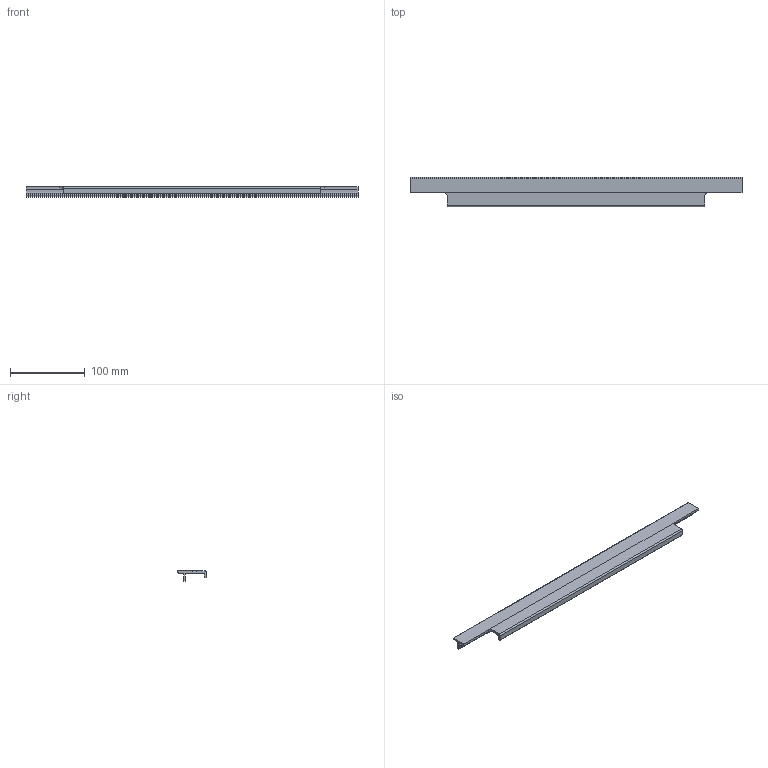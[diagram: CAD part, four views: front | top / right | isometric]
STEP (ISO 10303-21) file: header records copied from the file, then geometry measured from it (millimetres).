
FILE_DESCRIPTION( ( '' ), '1' );
FILE_NAME( 'C:/Documents and Settings/Nikhil/Desktop/Nik/Done/9105820.stp', '2013-10-23T08:20:06', ( '' ), ( '' ), ' ', ' ', ' ' );
FILE_SCHEMA( ( 'automotive_design' ) );
Length unit declared in the file: millimetre
Products named in the file (1): 1
Bounding box: 445 x 39 x 14 mm (x, y, z)
Volume: 61998.4 mm3; surface area: 47700.8 mm2
Topology: 1 solids, 1 shells, 40 faces, 112 edges, 74 vertices
Faces by surface type: plane 30, cylinder 10
Entity records: 2554 total; most frequent: STYLED_ITEM 227, PRESENTATION_STYLE_ASSIGNMENT 227, CARTESIAN_POINT 227, COLOUR_RGB 227, ORIENTED_EDGE 224, DIRECTION 214, EDGE_CURVE 112, CURVE_STYLE 112
